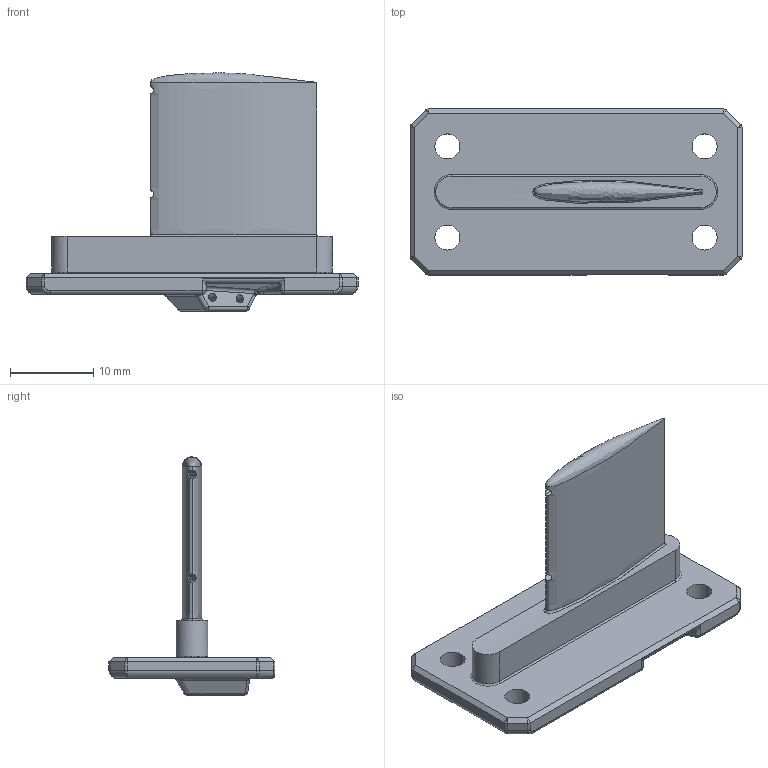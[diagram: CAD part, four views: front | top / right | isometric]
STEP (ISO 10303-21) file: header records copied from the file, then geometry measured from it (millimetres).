
FILE_DESCRIPTION(('CATIA V5 STEP Exchange','CAx-IF Rec.Pracs.--- Model Styling and Organization---1.5--- 2016-08-15','CAx-IF Rec.Pracs.---Supplemental Geometry---1.0---2011-11-01','CAx-IF Rec.Pracs.--- Composite Materials ---1.1---2010-07-15'),'2;1');
FILE_NAME('W:\8-25-003 RENOVATION DEBITMETRE PHI100 A S3\CATIA\Etude\S3MA-8-25003-1008--_PEIGNE_2_PRISES_GSP.stp','2026-02-06T08:58:34+00:00',('none'),('none'),'CATIA Version 5-6 Release 2020 SP6 HF13','CATIA V5 STEP AP214 v2','none');
FILE_SCHEMA(('AUTOMOTIVE_DESIGN { 1 0 10303 214 1 1 1 1 }'));
Length unit declared in the file: millimetre
Products named in the file (1): S3MA-8-25003-1008--_PEIGNE_2_PRISES_GSP
Bounding box: 40 x 20 x 28.7 mm (x, y, z)
Volume: 3133.7 mm3; surface area: 3092.3 mm2
Topology: 1 solids, 1 shells, 166 faces, 388 edges, 203 vertices
Faces by surface type: cylinder 70, plane 31, bspline 31, torus 12, cone 12, sphere 7, extrusion 2, revolution 1
Entity records: 8962 total; most frequent: CARTESIAN_POINT 5728, ORIENTED_EDGE 730, DIRECTION 490, EDGE_CURVE 365, AXIS2_PLACEMENT_3D 225, VERTEX_POINT 203, EDGE_LOOP 180, ADVANCED_FACE 166
